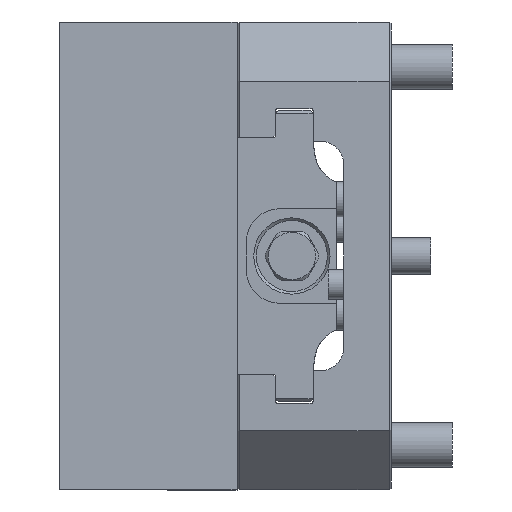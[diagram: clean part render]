
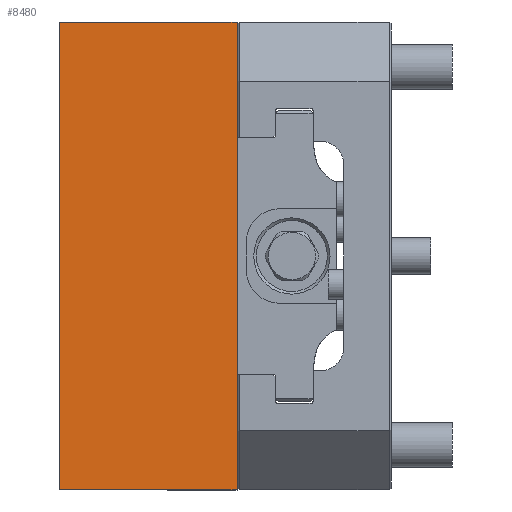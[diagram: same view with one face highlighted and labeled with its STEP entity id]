
A CAD part, left-side view. The second image highlights one B-rep face of the part: STEP entity #8480.
In plain terms, the highlighted planar face has unit normal (-1, 0, 0).
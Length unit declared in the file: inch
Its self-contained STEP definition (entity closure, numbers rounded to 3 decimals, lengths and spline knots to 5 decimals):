
#128 = CARTESIAN_POINT ( 'NONE',  ( 0., 0., 2.475 ) ) ;
#1044 = CARTESIAN_POINT ( 'NONE',  ( 0., 1.875, 2.475 ) ) ;
#1129 = VECTOR ( 'NONE', #13454, 39.37008 ) ;
#1260 = ORIENTED_EDGE ( 'NONE', *, *, #1497, .F. ) ;
#1497 = EDGE_CURVE ( 'NONE', #12854, #1590, #16897, .T. ) ;
#1590 = VERTEX_POINT ( 'NONE', #6028 ) ;
#1886 = EDGE_CURVE ( 'NONE', #17435, #5646, #6762, .T. ) ;
#2507 = CARTESIAN_POINT ( 'NONE',  ( 0., 0., 2.475 ) ) ;
#3062 = CARTESIAN_POINT ( 'NONE',  ( 0., 1.875, -2.475 ) ) ;
#3815 = CARTESIAN_POINT ( 'NONE',  ( 0., 1.875, 2.475 ) ) ;
#4259 = CARTESIAN_POINT ( 'NONE',  ( 0., 0., 2.475 ) ) ;
#4437 = CARTESIAN_POINT ( 'NONE',  ( 0., 0., 2.475 ) ) ;
#5146 = ORIENTED_EDGE ( 'NONE', *, *, #7127, .T. ) ;
#5527 = LINE ( 'NONE', #9251, #1129 ) ;
#5638 = DIRECTION ( 'NONE',  ( 1., 0., 0. ) ) ;
#5646 = VERTEX_POINT ( 'NONE', #3062 ) ;
#6028 = CARTESIAN_POINT ( 'NONE',  ( 0., 0., -2.475 ) ) ;
#6225 = VECTOR ( 'NONE', #6906, 39.37008 ) ;
#6762 = LINE ( 'NONE', #1044, #16436 ) ;
#6906 = DIRECTION ( 'NONE',  ( 0., 0., -1. ) ) ;
#7127 = EDGE_CURVE ( 'NONE', #5646, #1590, #5527, .T. ) ;
#8081 = EDGE_LOOP ( 'NONE', ( #5146, #1260, #17043, #16078 ) ) ;
#8082 = DIRECTION ( 'NONE',  ( 0., -1., 0. ) ) ;
#8480 = ADVANCED_FACE ( 'NONE', ( #13754 ), #9717, .F. ) ;
#8680 = AXIS2_PLACEMENT_3D ( 'NONE', #4259, #5638, #14013 ) ;
#8754 = VECTOR ( 'NONE', #8082, 39.37008 ) ;
#9251 = CARTESIAN_POINT ( 'NONE',  ( 0., 0., -2.475 ) ) ;
#9717 = PLANE ( 'NONE',  #8680 ) ;
#10425 = EDGE_CURVE ( 'NONE', #17435, #12854, #16288, .T. ) ;
#12854 = VERTEX_POINT ( 'NONE', #128 ) ;
#13454 = DIRECTION ( 'NONE',  ( 0., -1., 0. ) ) ;
#13580 = DIRECTION ( 'NONE',  ( 0., 0., -1. ) ) ;
#13754 = FACE_OUTER_BOUND ( 'NONE', #8081, .T. ) ;
#14013 = DIRECTION ( 'NONE',  ( 0., 0., -1. ) ) ;
#16078 = ORIENTED_EDGE ( 'NONE', *, *, #1886, .T. ) ;
#16288 = LINE ( 'NONE', #2507, #8754 ) ;
#16436 = VECTOR ( 'NONE', #13580, 39.37008 ) ;
#16897 = LINE ( 'NONE', #4437, #6225 ) ;
#17043 = ORIENTED_EDGE ( 'NONE', *, *, #10425, .F. ) ;
#17435 = VERTEX_POINT ( 'NONE', #3815 ) ;
